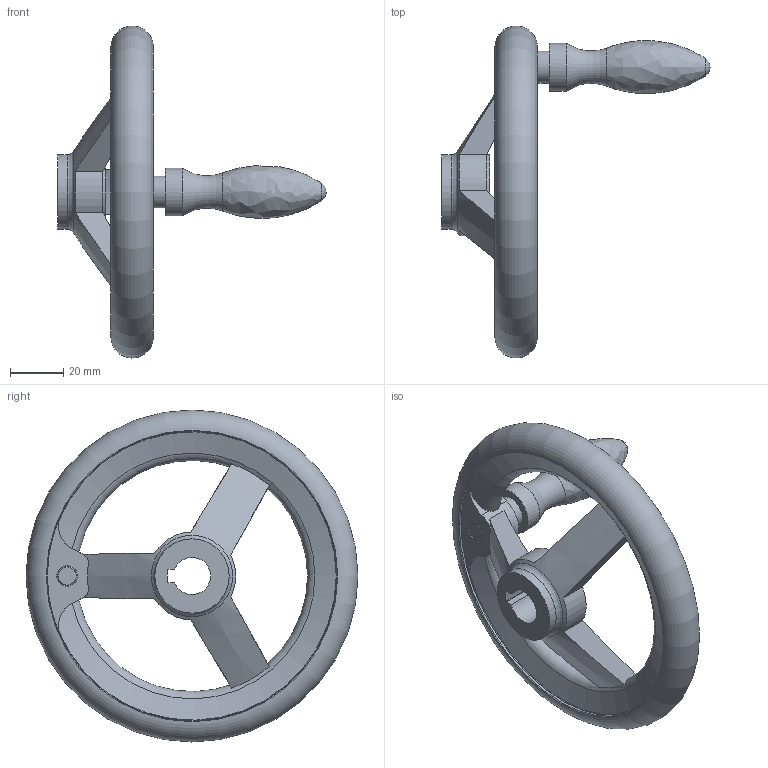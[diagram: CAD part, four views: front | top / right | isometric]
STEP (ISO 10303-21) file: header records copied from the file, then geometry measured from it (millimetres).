
FILE_DESCRIPTION( ( 'STEP AP203' ), '1' );
FILE_NAME( 'C:/Temp/Ganter_Step_05_03_2020/data/1_3/din_950/din_950_k/din_950_k_d/Handwheel DIN 950-AL-125-K14-D.stp', '2020-03-05T10:30:51', ( 'License CC BY-ND 4.0' ), ( 'CADENAS' ), ' ', 'PARTsolutions', ' ' );
FILE_SCHEMA( ( 'CONFIG_CONTROL_DESIGN' ) );
Length unit declared in the file: millimetre
Products named in the file (1): _Handwheel DIN 950-AL-125-K14-D
Bounding box: 101 x 124.99 x 124.99 mm (x, y, z)
Volume: 105599.6 mm3; surface area: 30128.2 mm2
Topology: 1 solids, 1 shells, 51 faces, 140 edges, 89 vertices
Faces by surface type: cylinder 17, plane 15, torus 11, cone 6, bspline 1, sphere 1
Full cylindrical faces by diameter (mm): 12 x1, 18 x1, 28 x2, 109 x2
Entity records: 1857 total; most frequent: CARTESIAN_POINT 649, DIRECTION 232, ORIENTED_EDGE 228, EDGE_CURVE 114, AXIS2_PLACEMENT_3D 104, VERTEX_POINT 85, EDGE_LOOP 77, FACE_OUTER_BOUND 66
